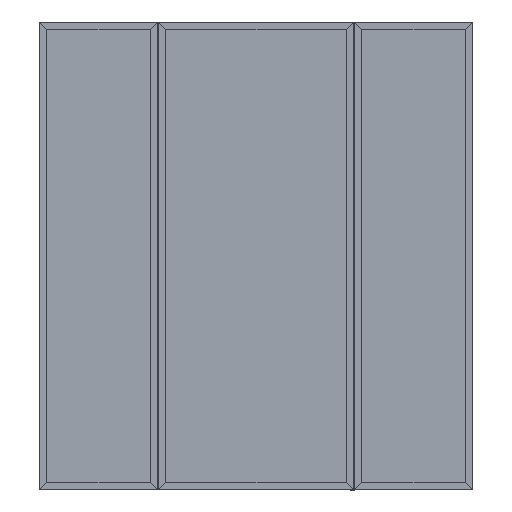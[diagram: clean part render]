
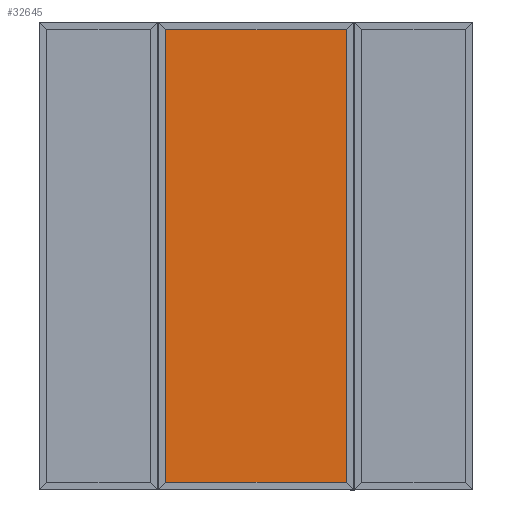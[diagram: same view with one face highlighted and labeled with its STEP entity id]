
A CAD part, top view. The second image highlights one B-rep face of the part: STEP entity #32645.
In plain terms, the highlighted planar face has unit normal (0, 0, 1).
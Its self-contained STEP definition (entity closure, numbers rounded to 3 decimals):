
#4712 = CARTESIAN_POINT ( 'NONE',  ( -465.07, -1162.2, -13.25 ) ) ;
#4827 = EDGE_LOOP ( 'NONE', ( #46961, #38801, #42497, #27123 ) ) ;
#5685 = CARTESIAN_POINT ( 'NONE',  ( -465.07, 1162.2, -13.25 ) ) ;
#6215 = VECTOR ( 'NONE', #30174, 1000. ) ;
#8843 = CARTESIAN_POINT ( 'NONE',  ( 0., 0., -13.25 ) ) ;
#13014 = VECTOR ( 'NONE', #42483, 1000. ) ;
#13578 = CARTESIAN_POINT ( 'NONE',  ( 465.07, 0., -13.25 ) ) ;
#13750 = FACE_OUTER_BOUND ( 'NONE', #4827, .T. ) ;
#14560 = EDGE_CURVE ( 'NONE', #23425, #31246, #22298, .T. ) ;
#18592 = CARTESIAN_POINT ( 'NONE',  ( 465.07, 1162.2, -13.25 ) ) ;
#22298 = LINE ( 'NONE', #13578, #6215 ) ;
#23419 = AXIS2_PLACEMENT_3D ( 'NONE', #8843, #25462, #30079 ) ;
#23425 = VERTEX_POINT ( 'NONE', #27344 ) ;
#23777 = VERTEX_POINT ( 'NONE', #4712 ) ;
#25462 = DIRECTION ( 'NONE',  ( 0., 0., -1. ) ) ;
#26144 = EDGE_CURVE ( 'NONE', #31246, #49734, #38565, .T. ) ;
#26345 = DIRECTION ( 'NONE',  ( -1., 0., 0. ) ) ;
#27123 = ORIENTED_EDGE ( 'NONE', *, *, #26144, .T. ) ;
#27344 = CARTESIAN_POINT ( 'NONE',  ( 465.07, -1162.2, -13.25 ) ) ;
#27370 = CARTESIAN_POINT ( 'NONE',  ( 0., -1162.2, -13.25 ) ) ;
#27568 = VECTOR ( 'NONE', #35252, 1000. ) ;
#30079 = DIRECTION ( 'NONE',  ( -1., 0., 0. ) ) ;
#30174 = DIRECTION ( 'NONE',  ( 0., 1., 0. ) ) ;
#31096 = LINE ( 'NONE', #46857, #13014 ) ;
#31246 = VERTEX_POINT ( 'NONE', #18592 ) ;
#32645 = ADVANCED_FACE ( 'NONE', ( #13750 ), #33613, .F. ) ;
#33613 = PLANE ( 'NONE',  #23419 ) ;
#34187 = EDGE_CURVE ( 'NONE', #23777, #49734, #31096, .T. ) ;
#35252 = DIRECTION ( 'NONE',  ( -1., 0., 0. ) ) ;
#35771 = LINE ( 'NONE', #27370, #27568 ) ;
#38565 = LINE ( 'NONE', #47018, #49822 ) ;
#38801 = ORIENTED_EDGE ( 'NONE', *, *, #49058, .F. ) ;
#42483 = DIRECTION ( 'NONE',  ( 0., 1., 0. ) ) ;
#42497 = ORIENTED_EDGE ( 'NONE', *, *, #14560, .T. ) ;
#46857 = CARTESIAN_POINT ( 'NONE',  ( -465.07, 0., -13.25 ) ) ;
#46961 = ORIENTED_EDGE ( 'NONE', *, *, #34187, .F. ) ;
#47018 = CARTESIAN_POINT ( 'NONE',  ( 0., 1162.2, -13.25 ) ) ;
#49058 = EDGE_CURVE ( 'NONE', #23425, #23777, #35771, .T. ) ;
#49734 = VERTEX_POINT ( 'NONE', #5685 ) ;
#49822 = VECTOR ( 'NONE', #26345, 1000. ) ;
